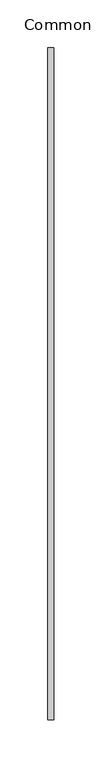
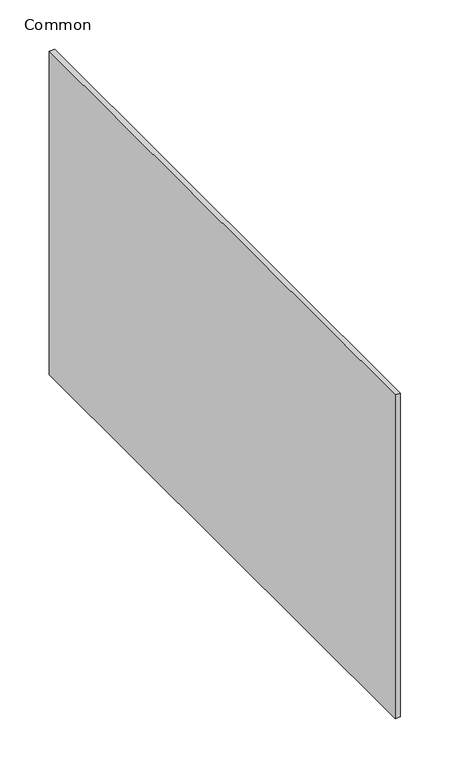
"""IFC4 building model written with IfcOpenShell, lengths in millimetres: duct fitting geometry, 071_角型ユニオン : Common."""

from ifc_helpers import new_model, si_unit, frame, origin, place, context, project, spatial, polyline, outline, extrude, source, transform, mapped, element, save


def common_1bca5769(model_context):
    return source(origin(), model_context, "Body", "SweptSolid", [
        extrude(outline(polyline([(3.0, 350.0), (3.0, -350.0), (-3.0, -350.0), (-3.0, 350.0), (3.0, 350.0)])), frame((0.0, 0.0, -200.0), z_axis=(0.0, 0.0, 1.0), x_axis=(1.0, 0.0, 0.0)), (0.0, 0.0, 1.0), 400.0),
    ])


if __name__ == "__main__":
    model = new_model("IFC4")
    model_context = context("Model", 3, world=origin())
    ifc_project = project(units=[si_unit("LENGTHUNIT", "METRE", prefix="MILLI")], contexts=[model_context])
    site = spatial("IfcSite", under=ifc_project)
    building = spatial("IfcBuilding", under=site)
    placement = place(None, origin())
    common_shape = common_1bca5769(model_context)
    element("IfcDuctFitting", 1, ObjectType="071_角型ユニオン : Common", at=placement, inside=building, context=model_context, shape_type="MappedRepresentation", body=[
        mapped(common_shape, transform((0.0, 0.0, 0.0), x_axis=(1.0, 0.0, 0.0), y_axis=(0.0, 1.0, 0.0), z_axis=(0.0, 0.0, 1.0))),
    ])
    save(model, "model.ifc")
